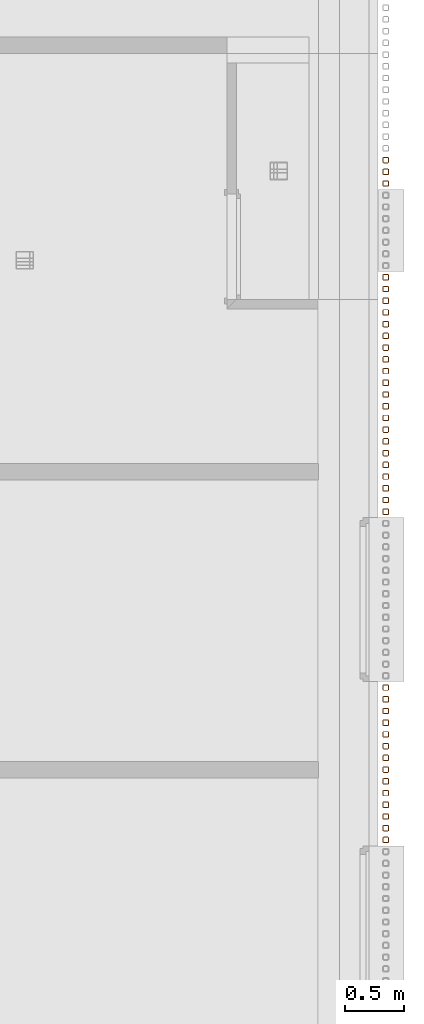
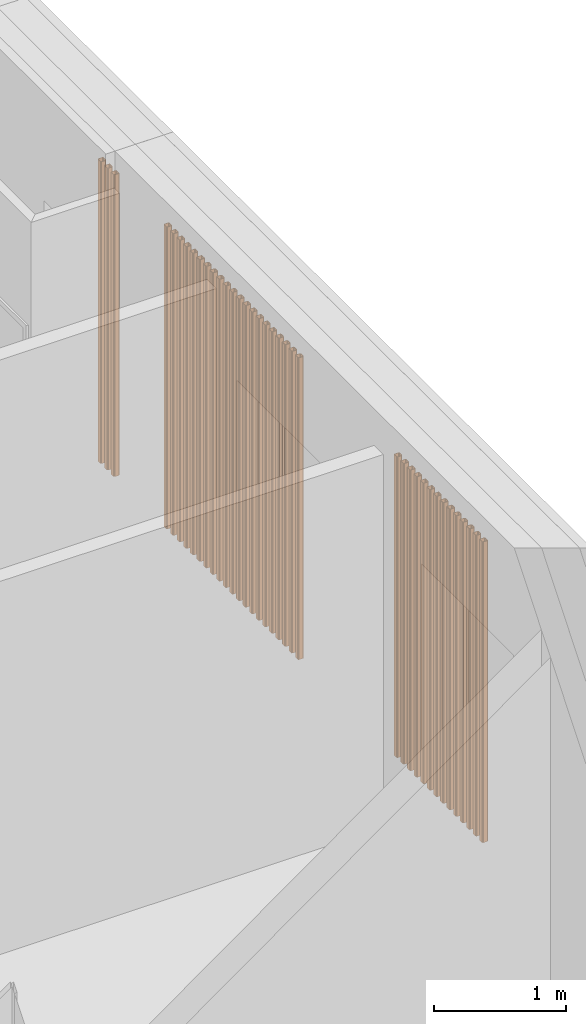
# One storey, part 80 of 112: 38 proxies.
"""IFC2X3 building model written with IfcOpenShell, lengths in millimetres."""

from ifc_helpers import new_model, entity, si_unit, converted_unit, derived_unit, money_unit, direction, frame, origin_with_axes, place, context, subcontext, project, spatial, faceted_brep, source, transform, mapped, material, type_object, element, save


model = new_model("IFC2X3")

# Units and contexts
model_context = context("Model", 3, precision=0.01, world=origin_with_axes(), true_north=direction((0.0, 1.0)))
body_context = subcontext(model_context, "Body", "Model", "MODEL_VIEW")
ifc_project = project(units=[si_unit("LENGTHUNIT", "METRE", prefix="MILLI"), si_unit("AREAUNIT", "SQUARE_METRE"), si_unit("VOLUMEUNIT", "CUBIC_METRE"), converted_unit("PLANEANGLEUNIT", "DEGREE", entity("IfcPlaneAngleMeasure", 0.0174532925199), si_unit("PLANEANGLEUNIT", "RADIAN"), dimensions=[0, 0, 0, 0, 0, 0, 0]), si_unit("SOLIDANGLEUNIT", "STERADIAN"), money_unit("EUR"), converted_unit("TIMEUNIT", "Year", entity("IfcTimeMeasure", 31556926.0), si_unit("TIMEUNIT", "SECOND"), dimensions=[0, 0, 1, 0, 0, 0, 0]), si_unit("MASSUNIT", "GRAM", prefix="KILO"), si_unit("THERMODYNAMICTEMPERATUREUNIT", "DEGREE_CELSIUS"), si_unit("LUMINOUSINTENSITYUNIT", "LUMEN"), si_unit("ENERGYUNIT", "JOULE", prefix="MEGA"), derived_unit("THERMALCONDUCTANCEUNIT", [(si_unit("POWERUNIT", "WATT"), 1), (si_unit("LENGTHUNIT", "METRE"), -1), (si_unit("THERMODYNAMICTEMPERATUREUNIT", "KELVIN"), -1)]), derived_unit("SPECIFICHEATCAPACITYUNIT", [(si_unit("ENERGYUNIT", "JOULE"), 1), (si_unit("MASSUNIT", "GRAM", prefix="KILO"), -1), (si_unit("THERMODYNAMICTEMPERATUREUNIT", "KELVIN"), -1)]), derived_unit("MASSDENSITYUNIT", [(si_unit("MASSUNIT", "GRAM", prefix="KILO"), 1), (si_unit("VOLUMEUNIT", "CUBIC_METRE"), -1)])], contexts=[model_context])

# Site, building, storey
site_placement = place(None, origin_with_axes())
site = spatial("IfcSite", under=ifc_project, at=site_placement, Name="Politse- ja Piirivalveameti ning Päästeameti ühishoone", CompositionType="ELEMENT")
building_placement = place(site_placement, origin_with_axes())
building = spatial("IfcBuilding", under=site, at=building_placement, Name="Politse- ja Piirivalveameti ning Päästeameti ühishoone", CompositionType="ELEMENT")
storey_placement = place(building_placement, origin_with_axes())
storey = spatial("IfcBuildingStorey", under=building, at=storey_placement, Name="Esimene korrus", CompositionType="ELEMENT", Elevation=0.0)

# Proxies
ifc_material = material(Name="ET-05_Teras")
building_element_proxy_type = type_object("IfcBuildingElementProxyType", Name="SHS Cold-Formed Column 23", PredefinedType="NOTDEFINED")
shared_shape_1 = source(origin_with_axes(), body_context, "Body", "Brep", [
    faceted_brep([(-17.0, -25.0, 0.0), (17.0, -25.0, 0.0), (17.0, -25.0, 2800.0), (-17.0, -25.0, 2800.0), (-22.6568542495, -22.6568542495, 0.0), (-25.0, -17.0, 0.0), (-25.0, 17.0, 0.0), (-22.6568542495, 22.6568542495, 0.0), (-17.0, 25.0, 0.0), (17.0, 25.0, 0.0), (22.6568542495, 22.6568542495, 0.0), (25.0, 17.0, 0.0), (25.0, -17.0, 0.0), (22.6568542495, -22.6568542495, 0.0), (-17.0, -21.0, 0.0), (17.0, -21.0, 0.0), (19.8284271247, -19.8284271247, 0.0), (21.0, -17.0, 0.0), (21.0, 17.0, 0.0), (19.8284271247, 19.8284271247, 0.0), (17.0, 21.0, 0.0), (-17.0, 21.0, 0.0), (-19.8284271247, 19.8284271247, 0.0), (-21.0, 17.0, 0.0), (-21.0, -17.0, 0.0), (-19.8284271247, -19.8284271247, 0.0), (22.6568542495, -22.6568542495, 2800.0), (25.0, -17.0, 2800.0), (25.0, 17.0, 2800.0), (22.6568542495, 22.6568542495, 2800.0), (17.0, 25.0, 2800.0), (-17.0, 25.0, 2800.0), (-22.6568542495, 22.6568542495, 2800.0), (-25.0, 17.0, 2800.0), (-25.0, -17.0, 2800.0), (-22.6568542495, -22.6568542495, 2800.0), (-17.0, -21.0, 2800.0), (-19.8284271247, -19.8284271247, 2800.0), (-21.0, -17.0, 2800.0), (-21.0, 17.0, 2800.0), (-19.8284271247, 19.8284271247, 2800.0), (-17.0, 21.0, 2800.0), (17.0, 21.0, 2800.0), (19.8284271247, 19.8284271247, 2800.0), (21.0, 17.0, 2800.0), (21.0, -17.0, 2800.0), (19.8284271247, -19.8284271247, 2800.0), (17.0, -21.0, 2800.0)], [[[0, 1, 2, 3]], [[0, 4, 5, 6, 7, 8, 9, 10, 11, 12, 13, 1], [14, 15, 16, 17, 18, 19, 20, 21, 22, 23, 24, 25]], [[1, 13, 26, 2]], [[3, 2, 26, 27, 28, 29, 30, 31, 32, 33, 34, 35], [36, 37, 38, 39, 40, 41, 42, 43, 44, 45, 46, 47]], [[4, 0, 3, 35]], [[5, 4, 35, 34]], [[6, 5, 34, 33]], [[7, 6, 33, 32]], [[8, 7, 32, 31]], [[9, 8, 31, 30]], [[10, 9, 30, 29]], [[11, 10, 29, 28]], [[12, 11, 28, 27]], [[13, 12, 27, 26]], [[15, 14, 36, 47]], [[16, 15, 47, 46]], [[17, 16, 46, 45]], [[18, 17, 45, 44]], [[19, 18, 44, 43]], [[20, 19, 43, 42]], [[21, 20, 42, 41]], [[22, 21, 41, 40]], [[23, 22, 40, 39]], [[24, 23, 39, 38]], [[25, 24, 38, 37]], [[14, 25, 37, 36]]]),
])
for number, where, z_axis, x_axis in (
    (1, (70235.2095212, 29750.0702441, 0.0), (0.0, 0.0, 1.0), (1.0, 0.0, 0.0)),
    (2, (70235.2095212, 29850.0702441, 0.0), (0.0, 0.0, 1.0), (1.0, 0.0, 0.0)),
    (3, (70235.2095212, 29950.0702441, 0.0), (0.0, 0.0, 1.0), (1.0, 0.0, 0.0)),
    (4, (70235.2095212, 30050.0702441, 0.0), (0.0, 0.0, 1.0), (1.0, 0.0, 0.0)),
    (5, (70235.2095212, 30150.0702441, 0.0), (0.0, 0.0, 1.0), (1.0, 0.0, 0.0)),
    (6, (70235.2095212, 30250.0702441, 0.0), (0.0, 0.0, 1.0), (1.0, 0.0, 0.0)),
    (7, (70235.2095212, 30350.0702441, 0.0), (0.0, 0.0, 1.0), (1.0, 0.0, 0.0)),
    (8, (70235.2095212, 30450.0702441, 0.0), (0.0, 0.0, 1.0), (1.0, 0.0, 0.0)),
    (9, (70235.2095212, 30550.0702441, 0.0), (0.0, 0.0, 1.0), (1.0, 0.0, 0.0)),
    (10, (70235.2095212, 30650.0702441, 0.0), (0.0, 0.0, 1.0), (1.0, 0.0, 0.0)),
    (11, (70235.2095212, 30750.0702441, 0.0), (0.0, 0.0, 1.0), (1.0, 0.0, 0.0)),
    (12, (70235.2095212, 30850.0702441, 0.0), (0.0, 0.0, 1.0), (1.0, 0.0, 0.0)),
    (13, (70235.2095212, 30950.0702441, 0.0), (0.0, 0.0, 1.0), (1.0, 0.0, 0.0)),
    (14, (70235.2095212, 31050.0702441, 0.0), (0.0, 0.0, 1.0), (1.0, 0.0, 0.0)),
    (15, (70235.2095212, 31150.0702441, 0.0), (0.0, 0.0, 1.0), (1.0, 0.0, 0.0)),
    (16, (70235.2095212, 31250.0702441, 0.0), (0.0, 0.0, 1.0), (1.0, 0.0, 0.0)),
    (17, (70235.2095212, 31350.0702441, 0.0), (0.0, 0.0, 1.0), (1.0, 0.0, 0.0)),
    (18, (70235.2095212, 31450.0702441, 0.0), (0.0, 0.0, 1.0), (1.0, 0.0, 0.0)),
    (19, (70235.2095212, 31550.0702441, 0.0), (0.0, 0.0, 1.0), (1.0, 0.0, 0.0)),
    (20, (70235.2095212, 31650.0702441, 0.0), (0.0, 0.0, 1.0), (1.0, 0.0, 0.0)),
    (21, (70235.2095212, 31750.0702441, 0.0), (0.0, 0.0, 1.0), (1.0, 0.0, 0.0)),
    (22, (70235.2095212, 32550.0702441, 0.0), (0.0, 0.0, 1.0), (1.0, 0.0, 0.0)),
    (23, (70235.2095212, 32650.0702441, 0.0), (0.0, 0.0, 1.0), (1.0, 0.0, 0.0)),
    (24, (70235.2095212, 32750.0702441, 0.0), (0.0, 0.0, 1.0), (1.0, 0.0, 0.0)),
):
    element("IfcBuildingElementProxy", number, at=place(storey_placement, frame(where, z_axis=z_axis, x_axis=x_axis)), inside=storey, type_object=building_element_proxy_type, material=ifc_material, Name="Fassaadiribid", context=body_context, shape_type="MappedRepresentation", body=[
        mapped(shared_shape_1, transform((0.0, 0.0, 0.0))),
    ])
shared_shape_2 = source(origin_with_axes(), body_context, "Body", "Brep", [
    faceted_brep([(-17.0, -25.0, 0.0), (17.0, -25.0, 0.0), (17.0, -25.0, 2790.0), (-17.0, -25.0, 2790.0), (-22.6568542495, -22.6568542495, 0.0), (-25.0, -17.0, 0.0), (-25.0, 17.0, 0.0), (-22.6568542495, 22.6568542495, 0.0), (-17.0, 25.0, 0.0), (17.0, 25.0, 0.0), (22.6568542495, 22.6568542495, 0.0), (25.0, 17.0, 0.0), (25.0, -17.0, 0.0), (22.6568542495, -22.6568542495, 0.0), (-17.0, -21.0, 0.0), (17.0, -21.0, 0.0), (19.8284271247, -19.8284271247, 0.0), (21.0, -17.0, 0.0), (21.0, 17.0, 0.0), (19.8284271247, 19.8284271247, 0.0), (17.0, 21.0, 0.0), (-17.0, 21.0, 0.0), (-19.8284271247, 19.8284271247, 0.0), (-21.0, 17.0, 0.0), (-21.0, -17.0, 0.0), (-19.8284271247, -19.8284271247, 0.0), (22.6568542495, -22.6568542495, 2790.0), (25.0, -17.0, 2790.0), (25.0, 17.0, 2790.0), (22.6568542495, 22.6568542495, 2790.0), (17.0, 25.0, 2790.0), (-17.0, 25.0, 2790.0), (-22.6568542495, 22.6568542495, 2790.0), (-25.0, 17.0, 2790.0), (-25.0, -17.0, 2790.0), (-22.6568542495, -22.6568542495, 2790.0), (-17.0, -21.0, 2790.0), (-19.8284271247, -19.8284271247, 2790.0), (-21.0, -17.0, 2790.0), (-21.0, 17.0, 2790.0), (-19.8284271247, 19.8284271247, 2790.0), (-17.0, 21.0, 2790.0), (17.0, 21.0, 2790.0), (19.8284271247, 19.8284271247, 2790.0), (21.0, 17.0, 2790.0), (21.0, -17.0, 2790.0), (19.8284271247, -19.8284271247, 2790.0), (17.0, -21.0, 2790.0)], [[[0, 1, 2, 3]], [[0, 4, 5, 6, 7, 8, 9, 10, 11, 12, 13, 1], [14, 15, 16, 17, 18, 19, 20, 21, 22, 23, 24, 25]], [[1, 13, 26, 2]], [[3, 2, 26, 27, 28, 29, 30, 31, 32, 33, 34, 35], [36, 37, 38, 39, 40, 41, 42, 43, 44, 45, 46, 47]], [[4, 0, 3, 35]], [[5, 4, 35, 34]], [[6, 5, 34, 33]], [[7, 6, 33, 32]], [[8, 7, 32, 31]], [[9, 8, 31, 30]], [[10, 9, 30, 29]], [[11, 10, 29, 28]], [[12, 11, 28, 27]], [[13, 12, 27, 26]], [[15, 14, 36, 47]], [[16, 15, 47, 46]], [[17, 16, 46, 45]], [[18, 17, 45, 44]], [[19, 18, 44, 43]], [[20, 19, 43, 42]], [[21, 20, 42, 41]], [[22, 21, 41, 40]], [[23, 22, 40, 39]], [[24, 23, 39, 38]], [[25, 24, 38, 37]], [[14, 25, 37, 36]]]),
])
for number, where, z_axis, x_axis in (
    (25, (70235.2095212, 26950.0702441, 0.0), (0.0, 0.0, 1.0), (1.0, 0.0, 0.0)),
    (26, (70235.2095212, 27050.0702441, 0.0), (0.0, 0.0, 1.0), (1.0, 0.0, 0.0)),
    (27, (70235.2095212, 27150.0702441, 0.0), (0.0, 0.0, 1.0), (1.0, 0.0, 0.0)),
    (28, (70235.2095212, 27250.0702441, 0.0), (0.0, 0.0, 1.0), (1.0, 0.0, 0.0)),
    (29, (70235.2095212, 27350.0702441, 0.0), (0.0, 0.0, 1.0), (1.0, 0.0, 0.0)),
    (30, (70235.2095212, 27450.0702441, 0.0), (0.0, 0.0, 1.0), (1.0, 0.0, 0.0)),
    (31, (70235.2095212, 27550.0702441, 0.0), (0.0, 0.0, 1.0), (1.0, 0.0, 0.0)),
    (32, (70235.2095212, 27650.0702441, 0.0), (0.0, 0.0, 1.0), (1.0, 0.0, 0.0)),
    (33, (70235.2095212, 27750.0702441, 0.0), (0.0, 0.0, 1.0), (1.0, 0.0, 0.0)),
    (34, (70235.2095212, 27850.0702441, 0.0), (0.0, 0.0, 1.0), (1.0, 0.0, 0.0)),
    (35, (70235.2095212, 27950.0702441, 0.0), (0.0, 0.0, 1.0), (1.0, 0.0, 0.0)),
    (36, (70235.2095212, 28050.0702441, 0.0), (0.0, 0.0, 1.0), (1.0, 0.0, 0.0)),
    (37, (70235.2095212, 28150.0702441, 0.0), (0.0, 0.0, 1.0), (1.0, 0.0, 0.0)),
    (38, (70235.2095212, 28250.0702441, 0.0), (0.0, 0.0, 1.0), (1.0, 0.0, 0.0)),
):
    element("IfcBuildingElementProxy", number, at=place(storey_placement, frame(where, z_axis=z_axis, x_axis=x_axis)), inside=storey, type_object=building_element_proxy_type, material=ifc_material, Name="Fassaadiribid", context=body_context, shape_type="MappedRepresentation", body=[
        mapped(shared_shape_2, transform((0.0, 0.0, 0.0))),
    ])

save(model, "model.ifc")
